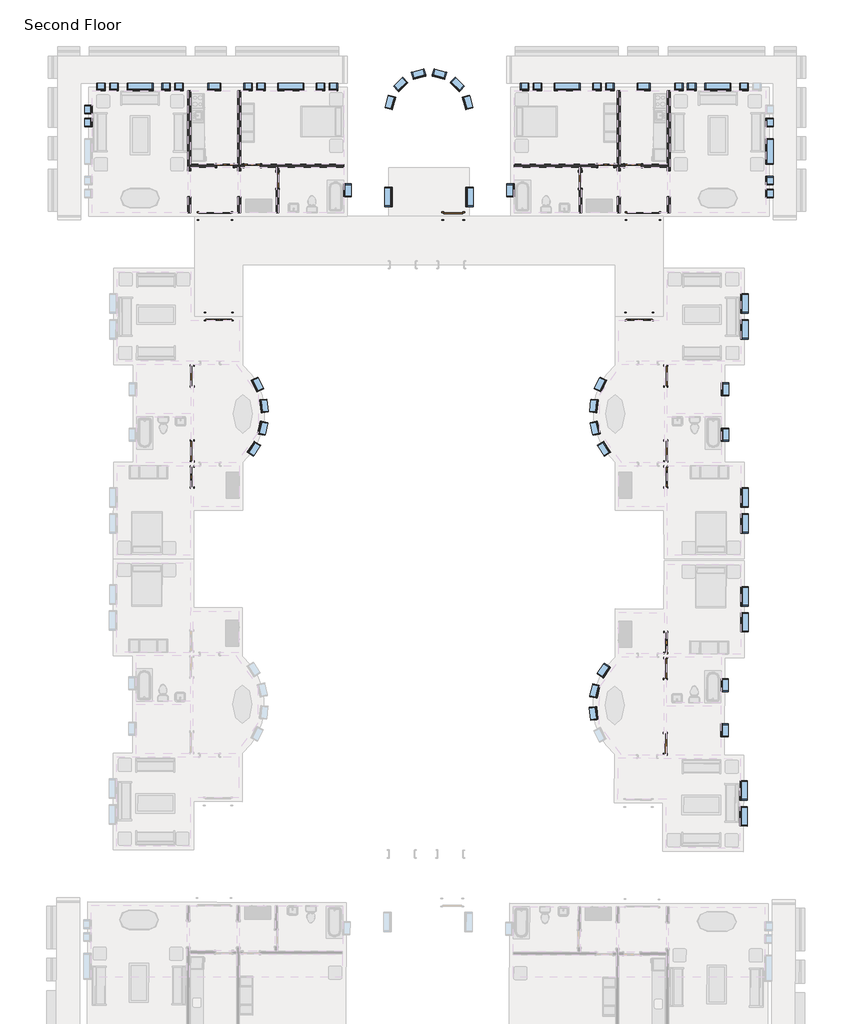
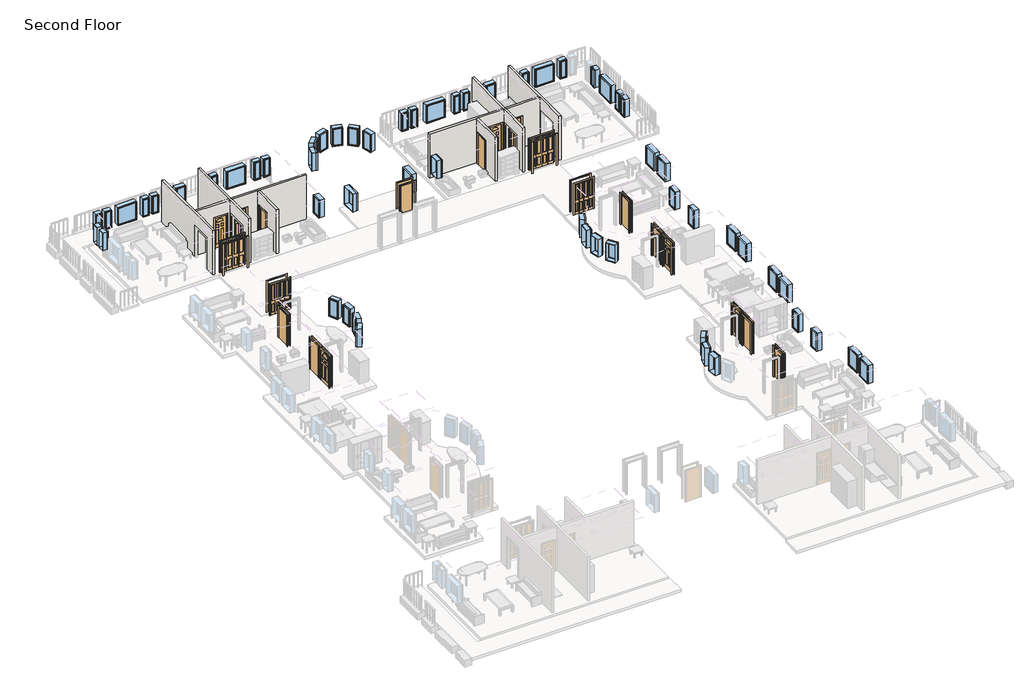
# One storey, part 2 of 8: 60 windows, 20 doors, 8 walls.
"""IFC4 building model written with IfcOpenShell, lengths in millimetres."""

from ifc_helpers import new_model, si_unit, frame, origin, place, context, project, spatial, polyline, outline, extrude, faceted_brep, transform, mapped, element, save
from components import m_bifold_4_panel_1220_x_2134mm_46e1cad3, m_bifold_4_panel_1220_x_2134mm_cde6dea2, m_bifold_4_panel_1525_x_2134mm_1ddae71f, m_bifold_4_panel_1525_x_2134mm_ac598c8b, m_single_decorative_2_0762_x_2134mm_0d0af7cb, m_single_decorative_2_0762_x_2134mm_2fe67c8e, m_single_decorative_2_0915_x_2134mm_cc9a65e4, m_single_decorative_2_0915_x_2134mm_0b11df3f, m_single_flush_0762_x_2134mm_0d89e411, m_single_flush_0762_x_2134mm_a28375c7, m_single_flush_0915_x_2134mm_1eac8bb1, m_single_flush_0915_x_2134mm_ab9b6334, m_single_flush_0915_x_2134mm_08e0827a, m_fixed_0406_x_1220mm_57fee329, m_fixed_0406_x_1220mm_85c28f40, m_fixed_0610_x_1220mm_2c28ef1d, m_fixed_0610_x_1220mm_1ea27827, m_fixed_0915_x_1220mm_bde29121, m_fixed_0915_x_1220mm_2a2509e7, m_fixed_1220_x_1220mm_e08ff7af, m_fixed_1220_x_1220mm_8f5f8ad3

model = new_model("IFC4")

# Units and contexts
model_context = context("Model", 3, world=origin())
ifc_project = project(units=[si_unit("LENGTHUNIT", "METRE", prefix="MILLI")], contexts=[model_context])

# Site, building, storey
site = spatial("IfcSite", under=ifc_project)
building = spatial("IfcBuilding", under=site)
storey = spatial("IfcBuildingStorey", under=building, Name="Second Floor", Elevation=3048.0)

# Doors
placement = place(None, origin())
m_bifold_4_panel_1220_x_2134mm_shape = m_bifold_4_panel_1220_x_2134mm_46e1cad3(model_context)
element("IfcDoor", 1, ObjectType="M_Bifold-4 Panel : 1220 x 2134mm", at=placement, inside=storey, context=model_context, shape_type="MappedRepresentation", body=[
    mapped(m_bifold_4_panel_1220_x_2134mm_shape, transform((-28863.3459343, -8240.6820888, 3048.0), x_axis=(-0.9999989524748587, 0.0014474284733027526, 0.0), y_axis=(-0.0014474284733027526, -0.9999989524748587, 0.0), z_axis=(0.0, 0.0, 1.0))),
])
m_bifold_4_panel_1220_x_2134mm_2_shape = m_bifold_4_panel_1220_x_2134mm_cde6dea2(model_context)
element("IfcDoor", 2, ObjectType="M_Bifold-4 Panel : 1220 x 2134mm", at=placement, inside=storey, context=model_context, shape_type="MappedRepresentation", body=[
    mapped(m_bifold_4_panel_1220_x_2134mm_2_shape, transform((-9050.8373063, -8240.6820888, 3048.0), x_axis=(0.9999989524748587, 0.0014474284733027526, 0.0), y_axis=(-0.0014474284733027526, 0.9999989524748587, 0.0), z_axis=(0.0, 0.0, 1.0))),
])
m_bifold_4_panel_1525_x_2134mm_shape = m_bifold_4_panel_1525_x_2134mm_1ddae71f(model_context)
element("IfcDoor", 3, ObjectType="M_Bifold-4 Panel : 1525 x 2134mm", at=placement, inside=storey, context=model_context, shape_type="MappedRepresentation", body=[
    mapped(m_bifold_4_panel_1525_x_2134mm_shape, transform((-8876.0916203, -3514.8811614, 3048.0), x_axis=(1.0, 0.0, 0.0), y_axis=(0.0, 1.0, 0.0), z_axis=(0.0, 0.0, 1.0))),
])
m_bifold_4_panel_1525_x_2134mm_2_shape = m_bifold_4_panel_1525_x_2134mm_ac598c8b(model_context)
element("IfcDoor", 4, ObjectType="M_Bifold-4 Panel : 1525 x 2134mm", at=placement, inside=storey, context=model_context, shape_type="MappedRepresentation", body=[
    mapped(m_bifold_4_panel_1525_x_2134mm_2_shape, transform((-29038.0916203, -3514.8811614, 3048.0), x_axis=(-1.0, 0.0, 0.0), y_axis=(0.0, -1.0, 0.0), z_axis=(0.0, 0.0, 1.0))),
])
m_single_decorative_2_0762_x_2134mm_shape = m_single_decorative_2_0762_x_2134mm_0d0af7cb(model_context)
element("IfcDoor", 5, ObjectType="M_Single-Decorative 2 : 0762 x 2134mm", at=placement, inside=storey, context=model_context, shape_type="MappedRepresentation", body=[
    mapped(m_single_decorative_2_0762_x_2134mm_shape, transform((-9342.3416203, -1138.1311614, 3048.0), x_axis=(-1.0, 0.0, 0.0), y_axis=(0.0, -1.0, 0.0), z_axis=(0.0, 0.0, 1.0))),
])
element("IfcDoor", 6, ObjectType="M_Single-Decorative 2 : 0762 x 2134mm", at=placement, inside=storey, context=model_context, shape_type="MappedRepresentation", body=[
    mapped(m_single_decorative_2_0762_x_2134mm_shape, transform((-27285.0916203, -1138.1311614, 3048.0), x_axis=(-1.0, 0.0, 0.0), y_axis=(0.0, -1.0, 0.0), z_axis=(0.0, 0.0, 1.0))),
])
m_single_decorative_2_0762_x_2134mm_2_shape = m_single_decorative_2_0762_x_2134mm_2fe67c8e(model_context)
element("IfcDoor", 7, ObjectType="M_Single-Decorative 2 : 0762 x 2134mm", at=placement, inside=storey, context=model_context, shape_type="MappedRepresentation", body=[
    mapped(m_single_decorative_2_0762_x_2134mm_2_shape, transform((-10629.0916203, -1138.1311614, 3048.0), x_axis=(1.0, 0.0, 0.0), y_axis=(0.0, 1.0, 0.0), z_axis=(0.0, 0.0, 1.0))),
])
element("IfcDoor", 8, ObjectType="M_Single-Decorative 2 : 0762 x 2134mm", at=placement, inside=storey, context=model_context, shape_type="MappedRepresentation", body=[
    mapped(m_single_decorative_2_0762_x_2134mm_2_shape, transform((-28571.8416203, -1138.1311614, 3048.0), x_axis=(1.0, 0.0, 0.0), y_axis=(0.0, 1.0, 0.0), z_axis=(0.0, 0.0, 1.0))),
])
m_single_decorative_2_0915_x_2134mm_shape = m_single_decorative_2_0915_x_2134mm_cc9a65e4(model_context)
element("IfcDoor", 9, ObjectType="M_Single-Decorative 2 : 0915 x 2134mm", at=placement, inside=storey, context=model_context, shape_type="MappedRepresentation", body=[
    mapped(m_single_decorative_2_0915_x_2134mm_shape, transform((-30117.2933431, -15803.1250115, 3048.0), x_axis=(0.0014474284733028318, 0.9999989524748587, 0.0), y_axis=(-0.9999989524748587, 0.0014474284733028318, 0.0), z_axis=(0.0, 0.0, 1.0))),
])
element("IfcDoor", 10, ObjectType="M_Single-Decorative 2 : 0915 x 2134mm", at=placement, inside=storey, context=model_context, shape_type="MappedRepresentation", body=[
    mapped(m_single_decorative_2_0915_x_2134mm_shape, transform((-7808.1742155, -23599.2312198, 3048.0), x_axis=(-0.004342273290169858, -0.9999905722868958, 0.0), y_axis=(0.9999905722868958, -0.004342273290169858, 0.0), z_axis=(0.0, 0.0, 1.0))),
])
m_single_decorative_2_0915_x_2134mm_2_shape = m_single_decorative_2_0915_x_2134mm_0b11df3f(model_context)
element("IfcDoor", 11, ObjectType="M_Single-Decorative 2 : 0915 x 2134mm", at=placement, inside=storey, context=model_context, shape_type="MappedRepresentation", body=[
    mapped(m_single_decorative_2_0915_x_2134mm_2_shape, transform((-7796.8898976, -15803.1250115, 3048.0), x_axis=(-0.0014474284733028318, 0.9999989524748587, 0.0), y_axis=(-0.9999989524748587, -0.0014474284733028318, 0.0), z_axis=(0.0, 0.0, 1.0))),
])
m_single_flush_0762_x_2134mm_shape = m_single_flush_0762_x_2134mm_0d89e411(model_context)
element("IfcDoor", 12, ObjectType="M_Single-Flush : 0762 x 2134mm", at=placement, inside=storey, context=model_context, shape_type="MappedRepresentation", body=[
    mapped(m_single_flush_0762_x_2134mm_shape, transform((-11819.5916203, -1815.8811614, 3048.0), x_axis=(0.0, 1.0, 0.0), y_axis=(-1.0, 0.0, 0.0), z_axis=(0.0, 0.0, 1.0))),
])
m_single_flush_0762_x_2134mm_2_shape = m_single_flush_0762_x_2134mm_a28375c7(model_context)
element("IfcDoor", 13, ObjectType="M_Single-Flush : 0762 x 2134mm", at=placement, inside=storey, context=model_context, shape_type="MappedRepresentation", body=[
    mapped(m_single_flush_0762_x_2134mm_2_shape, transform((-26094.5916203, -1815.8811614, 3048.0), x_axis=(0.0, 1.0, 0.0), y_axis=(-1.0, 0.0, 0.0), z_axis=(0.0, 0.0, 1.0))),
])
m_single_flush_0915_x_2134mm_shape = m_single_flush_0915_x_2134mm_1eac8bb1(model_context)
element("IfcDoor", 14, ObjectType="M_Single-Flush : 0915 x 2134mm", at=placement, inside=storey, context=model_context, shape_type="MappedRepresentation", body=[
    mapped(m_single_flush_0915_x_2134mm_shape, transform((-17814.0916203, -3514.8811614, 3048.0), x_axis=(1.0, 0.0, 0.0), y_axis=(0.0, 1.0, 0.0), z_axis=(0.0, 0.0, 1.0))),
])
m_single_flush_0915_x_2134mm_2_shape = m_single_flush_0915_x_2134mm_ab9b6334(model_context)
element("IfcDoor", 15, ObjectType="M_Single-Flush : 0915 x 2134mm", at=placement, inside=storey, context=model_context, shape_type="MappedRepresentation", body=[
    mapped(m_single_flush_0915_x_2134mm_2_shape, transform((-7803.7915984, -11034.8800064, 3048.0), x_axis=(-0.0014474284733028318, 0.9999989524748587, 0.0), y_axis=(-0.9999989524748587, -0.0014474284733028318, 0.0), z_axis=(0.0, 0.0, 1.0))),
])
element("IfcDoor", 16, ObjectType="M_Single-Flush : 0915 x 2134mm", at=placement, inside=storey, context=model_context, shape_type="MappedRepresentation", body=[
    mapped(m_single_flush_0915_x_2134mm_2_shape, transform((-30115.5274803, -14583.1262895, 3048.0), x_axis=(-0.0014474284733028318, -0.9999989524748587, 0.0), y_axis=(0.9999989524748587, -0.0014474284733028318, 0.0), z_axis=(0.0, 0.0, 1.0))),
])
element("IfcDoor", 17, ObjectType="M_Single-Flush : 0915 x 2134mm", at=placement, inside=storey, context=model_context, shape_type="MappedRepresentation", body=[
    mapped(m_single_flush_0915_x_2134mm_2_shape, transform((-7813.4717889, -24819.219718, 3048.0), x_axis=(0.004342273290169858, 0.9999905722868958, 0.0), y_axis=(-0.9999905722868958, 0.004342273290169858, 0.0), z_axis=(0.0, 0.0, 1.0))),
])
m_single_flush_0915_x_2134mm_3_shape = m_single_flush_0915_x_2134mm_08e0827a(model_context)
element("IfcDoor", 18, ObjectType="M_Single-Flush : 0915 x 2134mm", at=placement, inside=storey, context=model_context, shape_type="MappedRepresentation", body=[
    mapped(m_single_flush_0915_x_2134mm_3_shape, transform((-7798.6557603, -14583.1262895, 3048.0), x_axis=(0.0014474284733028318, -0.9999989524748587, 0.0), y_axis=(0.9999989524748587, 0.0014474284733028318, 0.0), z_axis=(0.0, 0.0, 1.0))),
])
element("IfcDoor", 19, ObjectType="M_Single-Flush : 0915 x 2134mm", at=placement, inside=storey, context=model_context, shape_type="MappedRepresentation", body=[
    mapped(m_single_flush_0915_x_2134mm_3_shape, transform((-30110.3916422, -11034.8800064, 3048.0), x_axis=(0.0014474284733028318, 0.9999989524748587, 0.0), y_axis=(-0.9999989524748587, 0.0014474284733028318, 0.0), z_axis=(0.0, 0.0, 1.0))),
])
element("IfcDoor", 20, ObjectType="M_Single-Flush : 0915 x 2134mm", at=placement, inside=storey, context=model_context, shape_type="MappedRepresentation", body=[
    mapped(m_single_flush_0915_x_2134mm_3_shape, transform((-7828.8792601, -28367.4362661, 3048.0), x_axis=(-0.004342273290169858, -0.9999905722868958, 0.0), y_axis=(0.9999905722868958, -0.004342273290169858, 0.0), z_axis=(0.0, 0.0, 1.0))),
])

# Walls
element("IfcWall", 21, ObjectType="Interior - 135mm Partition (2-hr)", at=placement, inside=storey, context=model_context, shape_type="Brep", body=[
    faceted_brep([(-7733.0916203, 2406.1188386, 3048.0), (-7733.0916203, -1070.3811614, 3048.0), (-7733.0916203, -1205.8811614, 3048.0), (-7733.0916203, -1380.8811614, 3048.0), (-7733.0916203, -1380.8811614, 5182.0), (-7733.0916203, -2600.8811614, 5182.0), (-7733.0916203, -2600.8811614, 3048.0), (-7733.0916203, -3339.8811614, 3048.0), (-7733.0916203, -3339.8811614, 6096.0), (-7733.0916203, -1205.8811614, 6096.0), (-7733.0916203, -1070.3811614, 6096.0), (-7733.0916203, 2406.1188386, 6096.0), (-7597.5916203, -1380.8811614, 5182.0), (-7597.5916203, -1380.8811614, 3048.0), (-7597.5916203, 2406.1188386, 3048.0), (-7597.5916203, 2406.1188386, 6096.0), (-7597.5916203, -3339.8811614, 6096.0), (-7597.5916203, -3339.8811614, 3048.0), (-7597.5916203, -2600.8811614, 3048.0), (-7597.5916203, -2600.8811614, 5182.0)], [[[0, 1, 2, 3, 4, 5, 6, 7, 8, 9, 10, 11]], [[12, 13, 14, 15, 16, 17, 18, 19]], [[18, 17, 7, 6]], [[14, 13, 3, 2, 1, 0]], [[11, 10, 9, 8, 16, 15]], [[6, 5, 19, 18]], [[4, 3, 13, 12]], [[5, 4, 12, 19]], [[8, 7, 17, 16]], [[0, 11, 15, 14]]]),
])
element("IfcWall", 22, ObjectType="Interior - 135mm Partition (2-hr)", at=placement, inside=storey, context=model_context, shape_type="Brep", body=[
    faceted_brep([(-10086.8416203, -2600.8811614, 5182.0), (-10086.8416203, -2600.8811614, 3048.0), (-10086.8416203, -3339.8811614, 3048.0), (-10086.8416203, -3339.8811614, 6096.0), (-10086.8416203, -1205.8811614, 6096.0), (-10086.8416203, -1070.3811614, 6096.0), (-10086.8416203, 2406.1188386, 6096.0), (-10086.8416203, 2406.1188386, 3048.0), (-10086.8416203, -1070.3811614, 3048.0), (-10086.8416203, -1205.8811614, 3048.0), (-10086.8416203, -1380.8811614, 3048.0), (-10086.8416203, -1380.8811614, 5182.0), (-9951.3416203, -3339.8811614, 3048.0), (-9951.3416203, -2600.8811614, 3048.0), (-9951.3416203, -2600.8811614, 5182.0), (-9951.3416203, -1380.8811614, 5182.0), (-9951.3416203, -1380.8811614, 3048.0), (-9951.3416203, -1205.8811614, 3048.0), (-9951.3416203, -1070.3811614, 3048.0), (-9951.3416203, 2406.1188386, 3048.0), (-9951.3416203, 2406.1188386, 6096.0), (-9951.3416203, -1070.3811614, 6096.0), (-9951.3416203, -1205.8811614, 6096.0), (-9951.3416203, -3339.8811614, 6096.0)], [[[0, 1, 2, 3, 4, 5, 6, 7, 8, 9, 10, 11]], [[12, 13, 14, 15, 16, 17, 18, 19, 20, 21, 22, 23]], [[2, 1, 13, 12]], [[10, 9, 8, 7, 19, 18, 17, 16]], [[6, 5, 4, 3, 23, 22, 21, 20]], [[16, 15, 11, 10]], [[14, 13, 1, 0]], [[15, 14, 0, 11]], [[3, 2, 12, 23]], [[7, 6, 20, 19]]]),
])
element("IfcWall", 23, ObjectType="Interior - 135mm Partition (2-hr)", at=placement, inside=storey, context=model_context, shape_type="Brep", body=[
    faceted_brep([(-9723.3416203, -1205.8811614, 3048.0), (-9723.3416203, -1205.8811614, 5182.0), (-8961.3416203, -1205.8811614, 5182.0), (-8961.3416203, -1205.8811614, 3048.0), (-7733.0916203, -1205.8811614, 3048.0), (-7733.0916203, -1205.8811614, 6096.0), (-9951.3416203, -1205.8811614, 6096.0), (-9951.3416203, -1205.8811614, 3048.0), (-9723.3416203, -1070.3811614, 5182.0), (-9723.3416203, -1070.3811614, 3048.0), (-9951.3416203, -1070.3811614, 3048.0), (-9951.3416203, -1070.3811614, 6096.0), (-7733.0916203, -1070.3811614, 6096.0), (-7733.0916203, -1070.3811614, 3048.0), (-8961.3416203, -1070.3811614, 3048.0), (-8961.3416203, -1070.3811614, 5182.0)], [[[0, 1, 2, 3, 4, 5, 6, 7]], [[8, 9, 10, 11, 12, 13, 14, 15]], [[9, 0, 7, 10]], [[3, 14, 13, 4]], [[5, 12, 11, 6]], [[1, 0, 9, 8]], [[2, 1, 8, 15]], [[3, 2, 15, 14]], [[5, 4, 13, 12]], [[7, 6, 11, 10]]]),
    faceted_brep([(-10248.0916203, -1205.8811614, 5182.0), (-10248.0916203, -1205.8811614, 3048.0), (-10086.8416203, -1205.8811614, 3048.0), (-10086.8416203, -1205.8811614, 6096.0), (-11751.8416203, -1205.8811614, 6096.0), (-11887.3416203, -1205.8811614, 6096.0), (-14935.3416203, -1205.8811614, 6096.0), (-14935.3416203, -1205.8811614, 3048.0), (-11887.3416203, -1205.8811614, 3048.0), (-11751.8416203, -1205.8811614, 3048.0), (-11010.0916203, -1205.8811614, 3048.0), (-11010.0916203, -1205.8811614, 5182.0), (-10248.0916203, -1070.3811614, 3048.0), (-10248.0916203, -1070.3811614, 5182.0), (-11010.0916203, -1070.3811614, 5182.0), (-11010.0916203, -1070.3811614, 3048.0), (-14935.3416203, -1070.3811614, 3048.0), (-14935.3416203, -1070.3811614, 6096.0), (-10086.8416203, -1070.3811614, 6096.0), (-10086.8416203, -1070.3811614, 3048.0)], [[[0, 1, 2, 3, 4, 5, 6, 7, 8, 9, 10, 11]], [[12, 13, 14, 15, 16, 17, 18, 19]], [[1, 12, 19, 2]], [[15, 10, 9, 8, 7, 16]], [[17, 6, 5, 4, 3, 18]], [[13, 12, 1, 0]], [[14, 13, 0, 11]], [[15, 14, 11, 10]], [[7, 6, 17, 16]], [[3, 2, 19, 18]]]),
])
element("IfcWall", 24, ObjectType="Interior - 135mm Partition (2-hr)", at=placement, inside=storey, context=model_context, shape_type="SweptSolid", body=[
    extrude(outline(polyline([(-1205.8811614, 3048.0), (-1434.8811614, 3048.0), (-1434.8811614, 5182.0), (-2196.8811614, 5182.0), (-2196.8811614, 3048.0), (-3339.8811614, 3048.0), (-3339.8811614, 6096.0), (-1205.8811614, 6096.0), (-1205.8811614, 3048.0)])), frame((-11887.3416203, 0.0, 0.0), z_axis=(1.0, 0.0, 0.0), x_axis=(0.0, 1.0, 0.0)), (0.0, 0.0, 1.0), 135.5),
])
element("IfcWall", 25, ObjectType="Interior - 135mm Partition (2-hr)", at=placement, inside=storey, context=model_context, shape_type="Brep", body=[
    faceted_brep([(-30316.5916203, 2406.1188386, 3048.0), (-30316.5916203, -1380.8811614, 3048.0), (-30316.5916203, -1380.8811614, 5182.0), (-30316.5916203, -2600.8811614, 5182.0), (-30316.5916203, -2600.8811614, 3048.0), (-30316.5916203, -3339.8811614, 3048.0), (-30316.5916203, -3339.8811614, 6096.0), (-30316.5916203, 2406.1188386, 6096.0), (-30181.0916203, -1380.8811614, 5182.0), (-30181.0916203, -1380.8811614, 3048.0), (-30181.0916203, -1205.8811614, 3048.0), (-30181.0916203, -1070.3811614, 3048.0), (-30181.0916203, 2406.1188386, 3048.0), (-30181.0916203, 2406.1188386, 6096.0), (-30181.0916203, -1070.3811614, 6096.0), (-30181.0916203, -1205.8811614, 6096.0), (-30181.0916203, -3339.8811614, 6096.0), (-30181.0916203, -3339.8811614, 3048.0), (-30181.0916203, -2600.8811614, 3048.0), (-30181.0916203, -2600.8811614, 5182.0)], [[[0, 1, 2, 3, 4, 5, 6, 7]], [[8, 9, 10, 11, 12, 13, 14, 15, 16, 17, 18, 19]], [[18, 17, 5, 4]], [[12, 11, 10, 9, 1, 0]], [[7, 6, 16, 15, 14, 13]], [[4, 3, 19, 18]], [[2, 1, 9, 8]], [[3, 2, 8, 19]], [[0, 7, 13, 12]], [[6, 5, 17, 16]]]),
])
element("IfcWall", 26, ObjectType="Interior - 135mm Partition (2-hr)", at=placement, inside=storey, context=model_context, shape_type="Brep", body=[
    faceted_brep([(-27962.8416203, -2600.8811614, 5182.0), (-27962.8416203, -2600.8811614, 3048.0), (-27962.8416203, -3339.8811614, 3048.0), (-27962.8416203, -3339.8811614, 6096.0), (-27962.8416203, -1205.8811614, 6096.0), (-27962.8416203, -1070.3811614, 6096.0), (-27962.8416203, 2406.1188386, 6096.0), (-27962.8416203, 2406.1188386, 3048.0), (-27962.8416203, -1070.3811614, 3048.0), (-27962.8416203, -1205.8811614, 3048.0), (-27962.8416203, -1380.8811614, 3048.0), (-27962.8416203, -1380.8811614, 5182.0), (-27827.3416203, -3339.8811614, 3048.0), (-27827.3416203, -2600.8811614, 3048.0), (-27827.3416203, -2600.8811614, 5182.0), (-27827.3416203, -1380.8811614, 5182.0), (-27827.3416203, -1380.8811614, 3048.0), (-27827.3416203, -1205.8811614, 3048.0), (-27827.3416203, -1070.3811614, 3048.0), (-27827.3416203, 2406.1188386, 3048.0), (-27827.3416203, 2406.1188386, 6096.0), (-27827.3416203, -1070.3811614, 6096.0), (-27827.3416203, -1205.8811614, 6096.0), (-27827.3416203, -3339.8811614, 6096.0)], [[[0, 1, 2, 3, 4, 5, 6, 7, 8, 9, 10, 11]], [[12, 13, 14, 15, 16, 17, 18, 19, 20, 21, 22, 23]], [[2, 1, 13, 12]], [[10, 9, 8, 7, 19, 18, 17, 16]], [[6, 5, 4, 3, 23, 22, 21, 20]], [[16, 15, 11, 10]], [[14, 13, 1, 0]], [[15, 14, 0, 11]], [[7, 6, 20, 19]], [[3, 2, 12, 23]]]),
])
element("IfcWall", 27, ObjectType="Interior - 135mm Partition (2-hr)", at=placement, inside=storey, context=model_context, shape_type="Brep", body=[
    faceted_brep([(-30181.0916203, -1070.3811614, 3048.0), (-30181.0916203, -1070.3811614, 6096.0), (-27962.8416203, -1070.3811614, 6096.0), (-27962.8416203, -1070.3811614, 3048.0), (-28190.8416203, -1070.3811614, 3048.0), (-28190.8416203, -1070.3811614, 5182.0), (-28952.8416203, -1070.3811614, 5182.0), (-28952.8416203, -1070.3811614, 3048.0), (-30181.0916203, -1205.8811614, 6096.0), (-30181.0916203, -1205.8811614, 3048.0), (-28952.8416203, -1205.8811614, 3048.0), (-28952.8416203, -1205.8811614, 5182.0), (-28190.8416203, -1205.8811614, 5182.0), (-28190.8416203, -1205.8811614, 3048.0), (-27962.8416203, -1205.8811614, 3048.0), (-27962.8416203, -1205.8811614, 6096.0)], [[[0, 1, 2, 3, 4, 5, 6, 7]], [[8, 9, 10, 11, 12, 13, 14, 15]], [[9, 0, 7, 10]], [[13, 4, 3, 14]], [[1, 8, 15, 2]], [[1, 0, 9, 8]], [[3, 2, 15, 14]], [[5, 4, 13, 12]], [[6, 5, 12, 11]], [[7, 6, 11, 10]]]),
    faceted_brep([(-27666.0916203, -1070.3811614, 5182.0), (-27666.0916203, -1070.3811614, 3048.0), (-27827.3416203, -1070.3811614, 3048.0), (-27827.3416203, -1070.3811614, 6096.0), (-22978.8416203, -1070.3811614, 6096.0), (-22978.8416203, -1070.3811614, 3048.0), (-26904.0916203, -1070.3811614, 3048.0), (-26904.0916203, -1070.3811614, 5182.0), (-27666.0916203, -1205.8811614, 3048.0), (-27666.0916203, -1205.8811614, 5182.0), (-26904.0916203, -1205.8811614, 5182.0), (-26904.0916203, -1205.8811614, 3048.0), (-26162.3416203, -1205.8811614, 3048.0), (-26026.8416203, -1205.8811614, 3048.0), (-22978.8416203, -1205.8811614, 3048.0), (-22978.8416203, -1205.8811614, 6096.0), (-26026.8416203, -1205.8811614, 6096.0), (-26162.3416203, -1205.8811614, 6096.0), (-27827.3416203, -1205.8811614, 6096.0), (-27827.3416203, -1205.8811614, 3048.0)], [[[0, 1, 2, 3, 4, 5, 6, 7]], [[8, 9, 10, 11, 12, 13, 14, 15, 16, 17, 18, 19]], [[1, 8, 19, 2]], [[11, 6, 5, 14, 13, 12]], [[15, 4, 3, 18, 17, 16]], [[3, 2, 19, 18]], [[9, 8, 1, 0]], [[10, 9, 0, 7]], [[11, 10, 7, 6]], [[5, 4, 15, 14]]]),
])
element("IfcWall", 28, ObjectType="Interior - 135mm Partition (2-hr)", at=placement, inside=storey, context=model_context, shape_type="SweptSolid", body=[
    extrude(outline(polyline([(-1205.8811614, 3048.0), (-1434.8811614, 3048.0), (-1434.8811614, 5182.0), (-2196.8811614, 5182.0), (-2196.8811614, 3048.0), (-3339.8811614, 3048.0), (-3339.8811614, 6096.0), (-1205.8811614, 6096.0), (-1205.8811614, 3048.0)])), frame((-26162.3416203, 0.0, 0.0), z_axis=(1.0, 0.0, 0.0), x_axis=(0.0, 1.0, 0.0)), (0.0, 0.0, 1.0), 135.5),
])

# Windows
m_fixed_0406_x_1220mm_shape = m_fixed_0406_x_1220mm_57fee329(model_context)
element("IfcWindow", 29, ObjectType="M_Fixed : 0406 x 1220mm", at=placement, inside=storey, context=model_context, shape_type="MappedRepresentation", body=[
    mapped(m_fixed_0406_x_1220mm_shape, transform((-14450.3416203, 2594.1188386, 3048.0), x_axis=(-1.0, 0.0, 0.0), y_axis=(0.0, -1.0, 0.0), z_axis=(0.0, 0.0, 1.0))),
])
element("IfcWindow", 30, ObjectType="M_Fixed : 0406 x 1220mm", at=placement, inside=storey, context=model_context, shape_type="MappedRepresentation", body=[
    mapped(m_fixed_0406_x_1220mm_shape, transform((-13840.3416203, 2594.1188386, 3048.0), x_axis=(-1.0, 0.0, 0.0), y_axis=(0.0, -1.0, 0.0), z_axis=(0.0, 0.0, 1.0))),
])
element("IfcWindow", 31, ObjectType="M_Fixed : 0406 x 1220mm", at=placement, inside=storey, context=model_context, shape_type="MappedRepresentation", body=[
    mapped(m_fixed_0406_x_1220mm_shape, transform((-7183.3416203, 2594.1188386, 3048.0), x_axis=(-1.0, 0.0, 0.0), y_axis=(0.0, -1.0, 0.0), z_axis=(0.0, 0.0, 1.0))),
])
element("IfcWindow", 32, ObjectType="M_Fixed : 0406 x 1220mm", at=placement, inside=storey, context=model_context, shape_type="MappedRepresentation", body=[
    mapped(m_fixed_0406_x_1220mm_shape, transform((-6573.3416203, 2594.1188386, 3048.0), x_axis=(-1.0, 0.0, 0.0), y_axis=(0.0, -1.0, 0.0), z_axis=(0.0, 0.0, 1.0))),
])
element("IfcWindow", 33, ObjectType="M_Fixed : 0406 x 1220mm", at=placement, inside=storey, context=model_context, shape_type="MappedRepresentation", body=[
    mapped(m_fixed_0406_x_1220mm_shape, transform((-2905.3416203, 904.1188386, 3048.0), x_axis=(0.0, 1.0, 0.0), y_axis=(-1.0, 0.0, 0.0), z_axis=(0.0, 0.0, 1.0))),
])
element("IfcWindow", 34, ObjectType="M_Fixed : 0406 x 1220mm", at=placement, inside=storey, context=model_context, shape_type="MappedRepresentation", body=[
    mapped(m_fixed_0406_x_1220mm_shape, transform((-27477.8416203, 2594.1188386, 3048.0), x_axis=(-1.0, 0.0, 0.0), y_axis=(0.0, -1.0, 0.0), z_axis=(0.0, 0.0, 1.0))),
])
element("IfcWindow", 35, ObjectType="M_Fixed : 0406 x 1220mm", at=placement, inside=storey, context=model_context, shape_type="MappedRepresentation", body=[
    mapped(m_fixed_0406_x_1220mm_shape, transform((-26867.8416203, 2594.1188386, 3048.0), x_axis=(-1.0, 0.0, 0.0), y_axis=(0.0, -1.0, 0.0), z_axis=(0.0, 0.0, 1.0))),
])
element("IfcWindow", 36, ObjectType="M_Fixed : 0406 x 1220mm", at=placement, inside=storey, context=model_context, shape_type="MappedRepresentation", body=[
    mapped(m_fixed_0406_x_1220mm_shape, transform((-34406.5916203, 2594.1188386, 3048.0), x_axis=(-1.0, 0.0, 0.0), y_axis=(0.0, -1.0, 0.0), z_axis=(0.0, 0.0, 1.0))),
])
element("IfcWindow", 37, ObjectType="M_Fixed : 0406 x 1220mm", at=placement, inside=storey, context=model_context, shape_type="MappedRepresentation", body=[
    mapped(m_fixed_0406_x_1220mm_shape, transform((-33796.5916203, 2594.1188386, 3048.0), x_axis=(-1.0, 0.0, 0.0), y_axis=(0.0, -1.0, 0.0), z_axis=(0.0, 0.0, 1.0))),
])
m_fixed_0406_x_1220mm_2_shape = m_fixed_0406_x_1220mm_85c28f40(model_context)
element("IfcWindow", 38, ObjectType="M_Fixed : 0406 x 1220mm", at=placement, inside=storey, context=model_context, shape_type="MappedRepresentation", body=[
    mapped(m_fixed_0406_x_1220mm_2_shape, transform((-10436.3416203, 2594.1188386, 3048.0), x_axis=(1.0, 0.0, 0.0), y_axis=(0.0, 1.0, 0.0), z_axis=(0.0, 0.0, 1.0))),
])
element("IfcWindow", 39, ObjectType="M_Fixed : 0406 x 1220mm", at=placement, inside=storey, context=model_context, shape_type="MappedRepresentation", body=[
    mapped(m_fixed_0406_x_1220mm_2_shape, transform((-11046.3416203, 2594.1188386, 3048.0), x_axis=(1.0, 0.0, 0.0), y_axis=(0.0, 1.0, 0.0), z_axis=(0.0, 0.0, 1.0))),
])
element("IfcWindow", 40, ObjectType="M_Fixed : 0406 x 1220mm", at=placement, inside=storey, context=model_context, shape_type="MappedRepresentation", body=[
    mapped(m_fixed_0406_x_1220mm_2_shape, transform((-4117.5916203, 2594.1188386, 3048.0), x_axis=(1.0, 0.0, 0.0), y_axis=(0.0, 1.0, 0.0), z_axis=(0.0, 0.0, 1.0))),
])
element("IfcWindow", 41, ObjectType="M_Fixed : 0406 x 1220mm", at=placement, inside=storey, context=model_context, shape_type="MappedRepresentation", body=[
    mapped(m_fixed_0406_x_1220mm_2_shape, transform((-2905.3416203, -2447.8811614, 3048.0), x_axis=(0.0, -1.0, 0.0), y_axis=(1.0, 0.0, 0.0), z_axis=(0.0, 0.0, 1.0))),
])
element("IfcWindow", 42, ObjectType="M_Fixed : 0406 x 1220mm", at=placement, inside=storey, context=model_context, shape_type="MappedRepresentation", body=[
    mapped(m_fixed_0406_x_1220mm_2_shape, transform((-2905.3416203, -1837.8811614, 3048.0), x_axis=(0.0, -1.0, 0.0), y_axis=(1.0, 0.0, 0.0), z_axis=(0.0, 0.0, 1.0))),
])
element("IfcWindow", 43, ObjectType="M_Fixed : 0406 x 1220mm", at=placement, inside=storey, context=model_context, shape_type="MappedRepresentation", body=[
    mapped(m_fixed_0406_x_1220mm_2_shape, transform((-23463.8416203, 2594.1188386, 3048.0), x_axis=(1.0, 0.0, 0.0), y_axis=(0.0, 1.0, 0.0), z_axis=(0.0, 0.0, 1.0))),
])
element("IfcWindow", 44, ObjectType="M_Fixed : 0406 x 1220mm", at=placement, inside=storey, context=model_context, shape_type="MappedRepresentation", body=[
    mapped(m_fixed_0406_x_1220mm_2_shape, transform((-24073.8416203, 2594.1188386, 3048.0), x_axis=(1.0, 0.0, 0.0), y_axis=(0.0, 1.0, 0.0), z_axis=(0.0, 0.0, 1.0))),
])
element("IfcWindow", 45, ObjectType="M_Fixed : 0406 x 1220mm", at=placement, inside=storey, context=model_context, shape_type="MappedRepresentation", body=[
    mapped(m_fixed_0406_x_1220mm_2_shape, transform((-30730.8416203, 2594.1188386, 3048.0), x_axis=(1.0, 0.0, 0.0), y_axis=(0.0, 1.0, 0.0), z_axis=(0.0, 0.0, 1.0))),
])
element("IfcWindow", 46, ObjectType="M_Fixed : 0406 x 1220mm", at=placement, inside=storey, context=model_context, shape_type="MappedRepresentation", body=[
    mapped(m_fixed_0406_x_1220mm_2_shape, transform((-31340.8416203, 2594.1188386, 3048.0), x_axis=(1.0, 0.0, 0.0), y_axis=(0.0, 1.0, 0.0), z_axis=(0.0, 0.0, 1.0))),
])
element("IfcWindow", 47, ObjectType="M_Fixed : 0406 x 1220mm", at=placement, inside=storey, context=model_context, shape_type="MappedRepresentation", body=[
    mapped(m_fixed_0406_x_1220mm_2_shape, transform((-35008.8416203, 1514.1188386, 3048.0), x_axis=(0.0, 1.0, 0.0), y_axis=(-1.0, 0.0, 0.0), z_axis=(0.0, 0.0, 1.0))),
])
element("IfcWindow", 48, ObjectType="M_Fixed : 0406 x 1220mm", at=placement, inside=storey, context=model_context, shape_type="MappedRepresentation", body=[
    mapped(m_fixed_0406_x_1220mm_2_shape, transform((-35008.8416203, 904.1188386, 3048.0), x_axis=(0.0, 1.0, 0.0), y_axis=(-1.0, 0.0, 0.0), z_axis=(0.0, 0.0, 1.0))),
])
m_fixed_0610_x_1220mm_shape = m_fixed_0610_x_1220mm_2c28ef1d(model_context)
element("IfcWindow", 49, ObjectType="M_Fixed : 0610 x 1220mm", at=placement, inside=storey, context=model_context, shape_type="MappedRepresentation", body=[
    mapped(m_fixed_0610_x_1220mm_shape, transform((-8842.1916203, 2594.1188386, 3048.0), x_axis=(-1.0, 0.0, 0.0), y_axis=(0.0, -1.0, 0.0), z_axis=(0.0, 0.0, 1.0))),
])
element("IfcWindow", 50, ObjectType="M_Fixed : 0610 x 1220mm", at=placement, inside=storey, context=model_context, shape_type="MappedRepresentation", body=[
    mapped(m_fixed_0610_x_1220mm_shape, transform((-15123.3416203, -2294.8811614, 3048.0), x_axis=(0.0, -1.0, 0.0), y_axis=(1.0, 0.0, 0.0), z_axis=(0.0, 0.0, 1.0))),
])
element("IfcWindow", 51, ObjectType="M_Fixed : 0610 x 1220mm", at=placement, inside=storey, context=model_context, shape_type="MappedRepresentation", body=[
    mapped(m_fixed_0610_x_1220mm_shape, transform((-20788.0201619, 1852.7146627, 3048.0), x_axis=(-0.2588190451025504, -0.9659258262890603, 0.0), y_axis=(0.9659258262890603, -0.2588190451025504, 0.0), z_axis=(0.0, 0.0, 1.0))),
])
element("IfcWindow", 52, ObjectType="M_Fixed : 0610 x 1220mm", at=placement, inside=storey, context=model_context, shape_type="MappedRepresentation", body=[
    mapped(m_fixed_0610_x_1220mm_shape, transform((-19447.6874444, 3193.0473802, 3048.0), x_axis=(-0.9659258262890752, -0.2588190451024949, 0.0), y_axis=(0.2588190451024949, -0.9659258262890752, 0.0), z_axis=(0.0, 0.0, 1.0))),
])
element("IfcWindow", 53, ObjectType="M_Fixed : 0610 x 1220mm", at=placement, inside=storey, context=model_context, shape_type="MappedRepresentation", body=[
    mapped(m_fixed_0610_x_1220mm_shape, transform((-20297.4243378, 2702.4515561, 3048.0), x_axis=(-0.707106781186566, -0.7071067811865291, 0.0), y_axis=(0.7071067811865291, -0.707106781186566, 0.0), z_axis=(0.0, 0.0, 1.0))),
])
element("IfcWindow", 54, ObjectType="M_Fixed : 0610 x 1220mm", at=placement, inside=storey, context=model_context, shape_type="MappedRepresentation", body=[
    mapped(m_fixed_0610_x_1220mm_shape, transform((-10890.7718819, -11438.4303335, 3048.0), x_axis=(-0.4506702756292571, -0.8926904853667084, 0.0), y_axis=(0.8926904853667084, -0.4506702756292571, 0.0), z_axis=(0.0, 0.0, 1.0))),
])
element("IfcWindow", 55, ObjectType="M_Fixed : 0610 x 1220mm", at=placement, inside=storey, context=model_context, shape_type="MappedRepresentation", body=[
    mapped(m_fixed_0610_x_1220mm_shape, transform((-11196.3470359, -12451.3940589, 3048.0), x_axis=(-0.11817340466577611, -0.9929929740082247, 0.0), y_axis=(0.9929929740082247, -0.11817340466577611, 0.0), z_axis=(0.0, 0.0, 1.0))),
])
element("IfcWindow", 56, ObjectType="M_Fixed : 0610 x 1220mm", at=placement, inside=storey, context=model_context, shape_type="MappedRepresentation", body=[
    mapped(m_fixed_0610_x_1220mm_shape, transform((-27195.6619811, -14479.206252, 3048.0), x_axis=(0.5477575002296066, 0.8366371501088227, 0.0), y_axis=(-0.8366371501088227, 0.5477575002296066, 0.0), z_axis=(0.0, 0.0, 1.0))),
])
element("IfcWindow", 57, ObjectType="M_Fixed : 0610 x 1220mm", at=placement, inside=storey, context=model_context, shape_type="MappedRepresentation", body=[
    mapped(m_fixed_0610_x_1220mm_shape, transform((-26778.8680979, -13507.3765282, 3048.0), x_axis=(0.22857692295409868, 0.9735258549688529, 0.0), y_axis=(-0.9735258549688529, 0.22857692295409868, 0.0), z_axis=(0.0, 0.0, 1.0))),
])
element("IfcWindow", 58, ObjectType="M_Fixed : 0610 x 1220mm", at=placement, inside=storey, context=model_context, shape_type="MappedRepresentation", body=[
    mapped(m_fixed_0610_x_1220mm_shape, transform((-5008.2557133, -25604.6081373, 3048.0), x_axis=(0.004342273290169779, 0.9999905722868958, 0.0), y_axis=(-0.9999905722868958, 0.004342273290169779, 0.0), z_axis=(0.0, 0.0, 1.0))),
])
element("IfcWindow", 59, ObjectType="M_Fixed : 0610 x 1220mm", at=placement, inside=storey, context=model_context, shape_type="MappedRepresentation", body=[
    mapped(m_fixed_0610_x_1220mm_shape, transform((-5017.5203876, -27738.1880223, 3048.0), x_axis=(0.004342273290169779, 0.9999905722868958, 0.0), y_axis=(-0.9999905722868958, 0.004342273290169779, 0.0), z_axis=(0.0, 0.0, 1.0))),
])
element("IfcWindow", 60, ObjectType="M_Fixed : 0610 x 1220mm", at=placement, inside=storey, context=model_context, shape_type="MappedRepresentation", body=[
    mapped(m_fixed_0610_x_1220mm_shape, transform((-10733.6258869, -24914.686736, 3048.0), x_axis=(-0.5501771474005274, -0.835047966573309, 0.0), y_axis=(0.835047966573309, -0.5501771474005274, 0.0), z_axis=(0.0, 0.0, 1.0))),
])
element("IfcWindow", 61, ObjectType="M_Fixed : 0610 x 1220mm", at=placement, inside=storey, context=model_context, shape_type="MappedRepresentation", body=[
    mapped(m_fixed_0610_x_1220mm_shape, transform((-11153.2313288, -25885.3058303, 3048.0), x_axis=(-0.23139418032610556, -0.9728600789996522, 0.0), y_axis=(0.9728600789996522, -0.23139418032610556, 0.0), z_axis=(0.0, 0.0, 1.0))),
])
m_fixed_0610_x_1220mm_2_shape = m_fixed_0610_x_1220mm_1ea27827(model_context)
element("IfcWindow", 62, ObjectType="M_Fixed : 0610 x 1220mm", at=placement, inside=storey, context=model_context, shape_type="MappedRepresentation", body=[
    mapped(m_fixed_0610_x_1220mm_2_shape, transform((-17126.1630788, 1852.7146627, 3048.0), x_axis=(0.2588190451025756, -0.9659258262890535, 0.0), y_axis=(0.9659258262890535, 0.2588190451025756, 0.0), z_axis=(0.0, 0.0, 1.0))),
])
element("IfcWindow", 63, ObjectType="M_Fixed : 0610 x 1220mm", at=placement, inside=storey, context=model_context, shape_type="MappedRepresentation", body=[
    mapped(m_fixed_0610_x_1220mm_2_shape, transform((-18466.4957962, 3193.0473802, 3048.0), x_axis=(0.9659258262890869, -0.2588190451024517, 0.0), y_axis=(0.2588190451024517, 0.9659258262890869, 0.0), z_axis=(0.0, 0.0, 1.0))),
])
element("IfcWindow", 64, ObjectType="M_Fixed : 0610 x 1220mm", at=placement, inside=storey, context=model_context, shape_type="MappedRepresentation", body=[
    mapped(m_fixed_0610_x_1220mm_2_shape, transform((-17616.7589029, 2702.4515561, 3048.0), x_axis=(0.7071067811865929, -0.7071067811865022, 0.0), y_axis=(0.7071067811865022, 0.7071067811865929, 0.0), z_axis=(0.0, 0.0, 1.0))),
])
element("IfcWindow", 65, ObjectType="M_Fixed : 0610 x 1220mm", at=placement, inside=storey, context=model_context, shape_type="MappedRepresentation", body=[
    mapped(m_fixed_0610_x_1220mm_2_shape, transform((-4991.1778541, -13805.8618518, 3048.0), x_axis=(0.0014474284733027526, -0.9999989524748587, 0.0), y_axis=(0.9999989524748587, 0.0014474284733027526, 0.0), z_axis=(0.0, 0.0, 1.0))),
])
element("IfcWindow", 66, ObjectType="M_Fixed : 0610 x 1220mm", at=placement, inside=storey, context=model_context, shape_type="MappedRepresentation", body=[
    mapped(m_fixed_0610_x_1220mm_2_shape, transform((-4994.2660875, -11672.2640868, 3048.0), x_axis=(0.0014474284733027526, -0.9999989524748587, 0.0), y_axis=(0.9999989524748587, 0.0014474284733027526, 0.0), z_axis=(0.0, 0.0, 1.0))),
])
element("IfcWindow", 67, ObjectType="M_Fixed : 0610 x 1220mm", at=placement, inside=storey, context=model_context, shape_type="MappedRepresentation", body=[
    mapped(m_fixed_0610_x_1220mm_2_shape, transform((-10720.0033717, -14480.1766106, 3048.0), x_axis=(-0.5477575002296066, 0.8366371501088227, 0.0), y_axis=(-0.8366371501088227, -0.5477575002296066, 0.0), z_axis=(0.0, 0.0, 1.0))),
])
element("IfcWindow", 68, ObjectType="M_Fixed : 0610 x 1220mm", at=placement, inside=storey, context=model_context, shape_type="MappedRepresentation", body=[
    mapped(m_fixed_0610_x_1220mm_2_shape, transform((-11137.0397547, -13507.7814548, 3048.0), x_axis=(-0.22857692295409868, 0.9735258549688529, 0.0), y_axis=(-0.9735258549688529, -0.22857692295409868, 0.0), z_axis=(0.0, 0.0, 1.0))),
])
element("IfcWindow", 69, ObjectType="M_Fixed : 0610 x 1220mm", at=placement, inside=storey, context=model_context, shape_type="MappedRepresentation", body=[
    mapped(m_fixed_0610_x_1220mm_2_shape, transform((-29071.9916203, 2594.1188386, 3048.0), x_axis=(1.0, 0.0, 0.0), y_axis=(0.0, 1.0, 0.0), z_axis=(0.0, 0.0, 1.0))),
])
element("IfcWindow", 70, ObjectType="M_Fixed : 0610 x 1220mm", at=placement, inside=storey, context=model_context, shape_type="MappedRepresentation", body=[
    mapped(m_fixed_0610_x_1220mm_2_shape, transform((-22790.8416203, -2294.8811614, 3048.0), x_axis=(0.0, -1.0, 0.0), y_axis=(1.0, 0.0, 0.0), z_axis=(0.0, 0.0, 1.0))),
])
element("IfcWindow", 71, ObjectType="M_Fixed : 0610 x 1220mm", at=placement, inside=storey, context=model_context, shape_type="MappedRepresentation", body=[
    mapped(m_fixed_0610_x_1220mm_2_shape, transform((-27024.99277, -11439.2287009, 3048.0), x_axis=(0.4506702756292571, -0.8926904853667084, 0.0), y_axis=(0.8926904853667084, 0.4506702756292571, 0.0), z_axis=(0.0, 0.0, 1.0))),
])
element("IfcWindow", 72, ObjectType="M_Fixed : 0610 x 1220mm", at=placement, inside=storey, context=model_context, shape_type="MappedRepresentation", body=[
    mapped(m_fixed_0610_x_1220mm_2_shape, transform((-26719.595303, -12451.6034044, 3048.0), x_axis=(0.11817340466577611, -0.9929929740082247, 0.0), y_axis=(0.9929929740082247, 0.11817340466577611, 0.0), z_axis=(0.0, 0.0, 1.0))),
])
element("IfcWindow", 73, ObjectType="M_Fixed : 0610 x 1220mm", at=placement, inside=storey, context=model_context, shape_type="MappedRepresentation", body=[
    mapped(m_fixed_0610_x_1220mm_2_shape, transform((-11215.5601844, -26940.9029442, 3048.0), x_axis=(-0.11529833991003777, 0.9933309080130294, 0.0), y_axis=(-0.9933309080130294, -0.11529833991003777, 0.0), z_axis=(0.0, 0.0, 1.0))),
])
m_fixed_0915_x_1220mm_shape = m_fixed_0915_x_1220mm_bde29121(model_context)
element("IfcWindow", 74, ObjectType="M_Fixed : 0915 x 1220mm", at=placement, inside=storey, context=model_context, shape_type="MappedRepresentation", body=[
    mapped(m_fixed_0915_x_1220mm_shape, transform((-20875.0916203, -2599.8811614, 3048.0), x_axis=(0.0, -1.0, 0.0), y_axis=(1.0, 0.0, 0.0), z_axis=(0.0, 0.0, 1.0))),
])
element("IfcWindow", 75, ObjectType="M_Fixed : 0915 x 1220mm", at=placement, inside=storey, context=model_context, shape_type="MappedRepresentation", body=[
    mapped(m_fixed_0915_x_1220mm_shape, transform((-17039.0916203, -2599.8811614, 3048.0), x_axis=(0.0, 1.0, 0.0), y_axis=(-1.0, 0.0, 0.0), z_axis=(0.0, 0.0, 1.0))),
])
element("IfcWindow", 76, ObjectType="M_Fixed : 0915 x 1220mm", at=placement, inside=storey, context=model_context, shape_type="MappedRepresentation", body=[
    mapped(m_fixed_0915_x_1220mm_shape, transform((-4075.7025589, -21426.0681439, 3048.0), x_axis=(0.004342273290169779, 0.9999905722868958, 0.0), y_axis=(-0.9999905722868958, 0.004342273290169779, 0.0), z_axis=(0.0, 0.0, 1.0))),
])
element("IfcWindow", 77, ObjectType="M_Fixed : 0915 x 1220mm", at=placement, inside=storey, context=model_context, shape_type="MappedRepresentation", body=[
    mapped(m_fixed_0915_x_1220mm_shape, transform((-4080.9966585, -22645.2566496, 3048.0), x_axis=(0.004342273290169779, 0.9999905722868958, 0.0), y_axis=(-0.9999905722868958, 0.004342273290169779, 0.0), z_axis=(0.0, 0.0, 1.0))),
])
element("IfcWindow", 78, ObjectType="M_Fixed : 0915 x 1220mm", at=placement, inside=storey, context=model_context, shape_type="MappedRepresentation", body=[
    mapped(m_fixed_0915_x_1220mm_shape, transform((-4115.4083058, -30569.9819368, 3048.0), x_axis=(0.004342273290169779, 0.9999905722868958, 0.0), y_axis=(-0.9999905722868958, 0.004342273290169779, 0.0), z_axis=(0.0, 0.0, 1.0))),
])
element("IfcWindow", 79, ObjectType="M_Fixed : 0915 x 1220mm", at=placement, inside=storey, context=model_context, shape_type="MappedRepresentation", body=[
    mapped(m_fixed_0915_x_1220mm_shape, transform((-4120.7024054, -31789.1704426, 3048.0), x_axis=(0.004342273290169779, 0.9999905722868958, 0.0), y_axis=(-0.9999905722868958, 0.004342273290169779, 0.0), z_axis=(0.0, 0.0, 1.0))),
])
m_fixed_0915_x_1220mm_2_shape = m_fixed_0915_x_1220mm_2a2509e7(model_context)
element("IfcWindow", 80, ObjectType="M_Fixed : 0915 x 1220mm", at=placement, inside=storey, context=model_context, shape_type="MappedRepresentation", body=[
    mapped(m_fixed_0915_x_1220mm_2_shape, transform((-4070.72487, -17987.0839419, 3048.0), x_axis=(0.0014474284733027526, -0.9999989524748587, 0.0), y_axis=(0.9999989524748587, 0.0014474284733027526, 0.0), z_axis=(0.0, 0.0, 1.0))),
])
element("IfcWindow", 81, ObjectType="M_Fixed : 0915 x 1220mm", at=placement, inside=storey, context=model_context, shape_type="MappedRepresentation", body=[
    mapped(m_fixed_0915_x_1220mm_2_shape, transform((-4072.4895748, -16767.885219, 3048.0), x_axis=(0.0014474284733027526, -0.9999989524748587, 0.0), y_axis=(0.9999989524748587, 0.0014474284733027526, 0.0), z_axis=(0.0, 0.0, 1.0))),
])
element("IfcWindow", 82, ObjectType="M_Fixed : 0915 x 1220mm", at=placement, inside=storey, context=model_context, shape_type="MappedRepresentation", body=[
    mapped(m_fixed_0915_x_1220mm_2_shape, transform((-4083.960156, -8843.0935205, 3048.0), x_axis=(0.0014474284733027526, -0.9999989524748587, 0.0), y_axis=(0.9999989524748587, 0.0014474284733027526, 0.0), z_axis=(0.0, 0.0, 1.0))),
])
element("IfcWindow", 83, ObjectType="M_Fixed : 0915 x 1220mm", at=placement, inside=storey, context=model_context, shape_type="MappedRepresentation", body=[
    mapped(m_fixed_0915_x_1220mm_2_shape, transform((-4085.7248607, -7623.8947976, 3048.0), x_axis=(0.0014474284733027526, -0.9999989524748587, 0.0), y_axis=(0.9999989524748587, 0.0014474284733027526, 0.0), z_axis=(0.0, 0.0, 1.0))),
])
m_fixed_1220_x_1220mm_shape = m_fixed_1220_x_1220mm_e08ff7af(model_context)
element("IfcWindow", 84, ObjectType="M_Fixed : 1220 x 1220mm", at=placement, inside=storey, context=model_context, shape_type="MappedRepresentation", body=[
    mapped(m_fixed_1220_x_1220mm_shape, transform((-12443.3416203, 2594.1188386, 3048.0), x_axis=(-1.0, 0.0, 0.0), y_axis=(0.0, -1.0, 0.0), z_axis=(0.0, 0.0, 1.0))),
])
element("IfcWindow", 85, ObjectType="M_Fixed : 1220 x 1220mm", at=placement, inside=storey, context=model_context, shape_type="MappedRepresentation", body=[
    mapped(m_fixed_1220_x_1220mm_shape, transform((-5345.4666203, 2594.1188386, 3048.0), x_axis=(-1.0, 0.0, 0.0), y_axis=(0.0, -1.0, 0.0), z_axis=(0.0, 0.0, 1.0))),
])
element("IfcWindow", 86, ObjectType="M_Fixed : 1220 x 1220mm", at=placement, inside=storey, context=model_context, shape_type="MappedRepresentation", body=[
    mapped(m_fixed_1220_x_1220mm_shape, transform((-2905.3416203, -466.8811614, 3048.0), x_axis=(0.0, 1.0, 0.0), y_axis=(-1.0, 0.0, 0.0), z_axis=(0.0, 0.0, 1.0))),
])
m_fixed_1220_x_1220mm_2_shape = m_fixed_1220_x_1220mm_8f5f8ad3(model_context)
element("IfcWindow", 87, ObjectType="M_Fixed : 1220 x 1220mm", at=placement, inside=storey, context=model_context, shape_type="MappedRepresentation", body=[
    mapped(m_fixed_1220_x_1220mm_2_shape, transform((-25470.8416203, 2594.1188386, 3048.0), x_axis=(1.0, 0.0, 0.0), y_axis=(0.0, 1.0, 0.0), z_axis=(0.0, 0.0, 1.0))),
])
element("IfcWindow", 88, ObjectType="M_Fixed : 1220 x 1220mm", at=placement, inside=storey, context=model_context, shape_type="MappedRepresentation", body=[
    mapped(m_fixed_1220_x_1220mm_2_shape, transform((-32568.7166203, 2594.1188386, 3048.0), x_axis=(1.0, 0.0, 0.0), y_axis=(0.0, 1.0, 0.0), z_axis=(0.0, 0.0, 1.0))),
])

save(model, "model.ifc")
